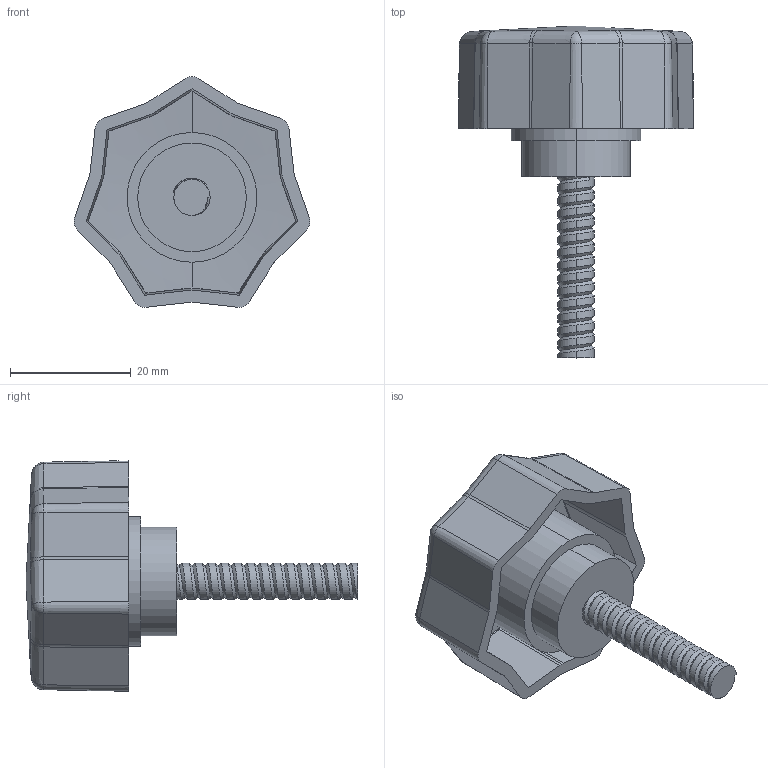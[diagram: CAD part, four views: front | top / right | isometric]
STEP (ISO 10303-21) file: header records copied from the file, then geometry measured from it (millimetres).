
FILE_DESCRIPTION (( 'STEP AP203' ), '1' );
FILE_NAME ('AP-1050-40-M6-30.STEP', '2015-11-23T11:59:50', ( '' ), ( '' ), 'SwSTEP 2.0', 'SolidWorks 2014', '' );
FILE_SCHEMA (( 'CONFIG_CONTROL_DESIGN' ));
Length unit declared in the file: millimetre
Products named in the file (1): AP-1050-40-M6-30
Bounding box: 39.1 x 55 x 38.21 mm (x, y, z)
Volume: 13602.3 mm3; surface area: 7555.3 mm2
Topology: 1 solids, 1 shells, 147 faces, 375 edges, 224 vertices
Faces by surface type: cylinder 51, bspline 51, plane 34, cone 11
Entity records: 7742 total; most frequent: CARTESIAN_POINT 4812, ORIENTED_EDGE 732, DIRECTION 416, EDGE_CURVE 366, VERTEX_POINT 224, EDGE_LOOP 150, ADVANCED_FACE 147, FACE_OUTER_BOUND 147
